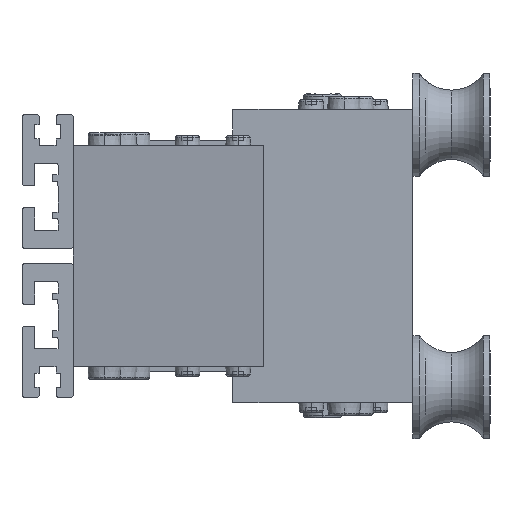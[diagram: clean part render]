
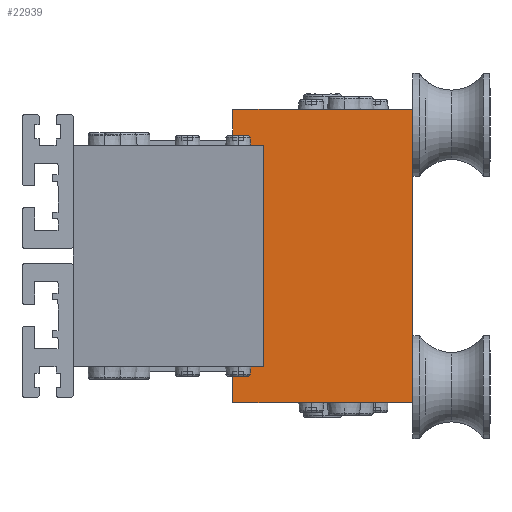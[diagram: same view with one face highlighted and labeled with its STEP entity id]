
A CAD part, left-side view. The second image highlights one B-rep face of the part: STEP entity #22939.
In plain terms, the highlighted planar face has unit normal (-1, 0, 0).
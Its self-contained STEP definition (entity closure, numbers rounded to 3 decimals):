
#15 = DIRECTION ( 'NONE',  ( 0., 0., 1. ) ) ;
#545 = CARTESIAN_POINT ( 'NONE',  ( -250.579, 34.384, 793. ) ) ;
#637 = CARTESIAN_POINT ( 'NONE',  ( -250.579, 34.384, 1499.07 ) ) ;
#943 = VERTEX_POINT ( 'NONE', #5871 ) ;
#1465 = VERTEX_POINT ( 'NONE', #28803 ) ;
#2071 = DIRECTION ( 'NONE',  ( 0., 0., 1. ) ) ;
#2199 = CARTESIAN_POINT ( 'NONE',  ( -250.579, 34.384, 1499.07 ) ) ;
#2669 = CARTESIAN_POINT ( 'NONE',  ( -250.579, -0.616, 793. ) ) ;
#2698 = ORIENTED_EDGE ( 'NONE', *, *, #23931, .F. ) ;
#3916 = AXIS2_PLACEMENT_3D ( 'NONE', #637, #12119, #23554 ) ;
#4443 = VECTOR ( 'NONE', #2071, 1000. ) ;
#4605 = VERTEX_POINT ( 'NONE', #545 ) ;
#4992 = CARTESIAN_POINT ( 'NONE',  ( -250.579, 34.384, 807. ) ) ;
#5429 = CARTESIAN_POINT ( 'NONE',  ( -250.579, 22.384, 893. ) ) ;
#5655 = LINE ( 'NONE', #14312, #25929 ) ;
#5728 = VECTOR ( 'NONE', #14202, 1000. ) ;
#5871 = CARTESIAN_POINT ( 'NONE',  ( -250.579, 22.384, 807. ) ) ;
#6427 = ORIENTED_EDGE ( 'NONE', *, *, #26904, .F. ) ;
#7092 = DIRECTION ( 'NONE',  ( 0., 0., 1. ) ) ;
#8435 = ORIENTED_EDGE ( 'NONE', *, *, #22861, .F. ) ;
#8556 = ORIENTED_EDGE ( 'NONE', *, *, #12712, .T. ) ;
#8964 = VERTEX_POINT ( 'NONE', #35247 ) ;
#9107 = LINE ( 'NONE', #25992, #5728 ) ;
#10229 = VECTOR ( 'NONE', #21903, 1000. ) ;
#10929 = CARTESIAN_POINT ( 'NONE',  ( -250.579, 34.384, 1499.07 ) ) ;
#10972 = VERTEX_POINT ( 'NONE', #35924 ) ;
#11238 = DIRECTION ( 'NONE',  ( 0., 0., 1. ) ) ;
#11410 = EDGE_CURVE ( 'NONE', #4605, #1465, #13361, .T. ) ;
#12119 = DIRECTION ( 'NONE',  ( 1., 0., 0. ) ) ;
#12712 = EDGE_CURVE ( 'NONE', #8964, #36728, #5655, .T. ) ;
#13361 = LINE ( 'NONE', #10929, #4443 ) ;
#14202 = DIRECTION ( 'NONE',  ( 0., 1., 0. ) ) ;
#14312 = CARTESIAN_POINT ( 'NONE',  ( -250.579, -35.616, 1499.07 ) ) ;
#14343 = VECTOR ( 'NONE', #11238, 1000. ) ;
#15366 = LINE ( 'NONE', #18914, #22766 ) ;
#16328 = LINE ( 'NONE', #27746, #21417 ) ;
#16754 = EDGE_LOOP ( 'NONE', ( #6427, #30245, #18282, #8556, #2698, #35327, #8435, #19833 ) ) ;
#18282 = ORIENTED_EDGE ( 'NONE', *, *, #21193, .F. ) ;
#18914 = CARTESIAN_POINT ( 'NONE',  ( -250.579, 22.384, 1499.07 ) ) ;
#19833 = ORIENTED_EDGE ( 'NONE', *, *, #26741, .F. ) ;
#19939 = LINE ( 'NONE', #2669, #24882 ) ;
#20722 = CARTESIAN_POINT ( 'NONE',  ( -250.579, -35.616, 907. ) ) ;
#21193 = EDGE_CURVE ( 'NONE', #8964, #4605, #19939, .T. ) ;
#21417 = VECTOR ( 'NONE', #22866, 1000. ) ;
#21903 = DIRECTION ( 'NONE',  ( 0., -1., 0. ) ) ;
#22766 = VECTOR ( 'NONE', #7092, 1000. ) ;
#22861 = EDGE_CURVE ( 'NONE', #25151, #10972, #9107, .T. ) ;
#22866 = DIRECTION ( 'NONE',  ( 0., -1., 0. ) ) ;
#22939 = ADVANCED_FACE ( 'NONE', ( #23183 ), #26366, .F. ) ;
#23183 = FACE_OUTER_BOUND ( 'NONE', #16754, .T. ) ;
#23554 = DIRECTION ( 'NONE',  ( 0., 1., 0. ) ) ;
#23931 = EDGE_CURVE ( 'NONE', #34205, #36728, #16328, .T. ) ;
#24882 = VECTOR ( 'NONE', #36818, 1000. ) ;
#25151 = VERTEX_POINT ( 'NONE', #5429 ) ;
#25929 = VECTOR ( 'NONE', #15, 1000. ) ;
#25992 = CARTESIAN_POINT ( 'NONE',  ( -250.579, 34.384, 893. ) ) ;
#26366 = PLANE ( 'NONE',  #3916 ) ;
#26741 = EDGE_CURVE ( 'NONE', #943, #25151, #15366, .T. ) ;
#26904 = EDGE_CURVE ( 'NONE', #1465, #943, #30692, .T. ) ;
#27746 = CARTESIAN_POINT ( 'NONE',  ( -250.579, -0.616, 907. ) ) ;
#28803 = CARTESIAN_POINT ( 'NONE',  ( -250.579, 34.384, 807. ) ) ;
#30245 = ORIENTED_EDGE ( 'NONE', *, *, #11410, .F. ) ;
#30692 = LINE ( 'NONE', #4992, #10229 ) ;
#32281 = CARTESIAN_POINT ( 'NONE',  ( -250.579, 34.384, 907. ) ) ;
#34097 = LINE ( 'NONE', #2199, #14343 ) ;
#34205 = VERTEX_POINT ( 'NONE', #32281 ) ;
#35247 = CARTESIAN_POINT ( 'NONE',  ( -250.579, -35.616, 793. ) ) ;
#35327 = ORIENTED_EDGE ( 'NONE', *, *, #36117, .F. ) ;
#35924 = CARTESIAN_POINT ( 'NONE',  ( -250.579, 34.384, 893. ) ) ;
#36117 = EDGE_CURVE ( 'NONE', #10972, #34205, #34097, .T. ) ;
#36728 = VERTEX_POINT ( 'NONE', #20722 ) ;
#36818 = DIRECTION ( 'NONE',  ( 0., 1., 0. ) ) ;
